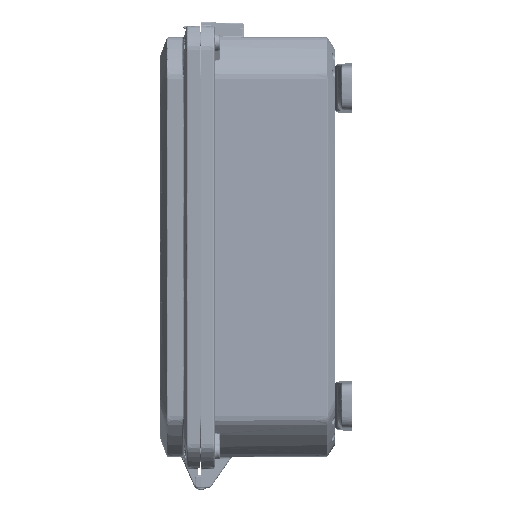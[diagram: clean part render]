
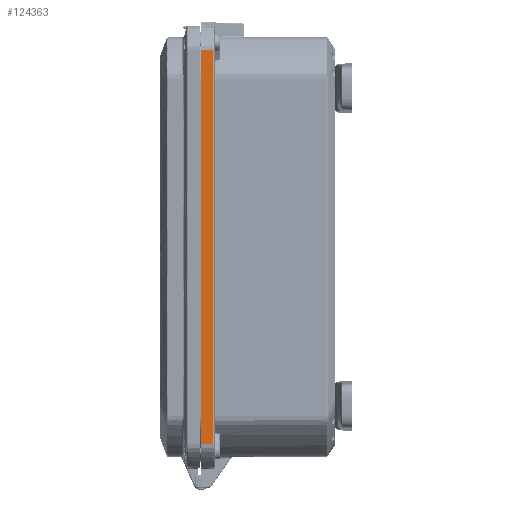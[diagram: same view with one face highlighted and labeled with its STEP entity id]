
A CAD part, left-side view. The second image highlights one B-rep face of the part: STEP entity #124363.
In plain terms, the highlighted planar face has unit normal (-0.999, -0.035, 0).
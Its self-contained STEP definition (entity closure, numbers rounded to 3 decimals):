
#17438 = EDGE_LOOP ( 'NONE', ( #220310, #127961, #129825, #245596 ) ) ;
#19731 = DIRECTION ( 'NONE',  ( 0.035, -0.999, 0. ) ) ;
#23626 = FACE_OUTER_BOUND ( 'NONE', #17438, .T. ) ;
#24797 = VECTOR ( 'NONE', #201503, 39.37 ) ;
#30060 = VERTEX_POINT ( 'NONE', #273532 ) ;
#31733 = CARTESIAN_POINT ( 'NONE',  ( -7.62, 0., 5.89 ) ) ;
#34890 = DIRECTION ( 'NONE',  ( 0., 0., 1. ) ) ;
#38481 = VERTEX_POINT ( 'NONE', #51952 ) ;
#48279 = PLANE ( 'NONE',  #267565 ) ;
#51952 = CARTESIAN_POINT ( 'NONE',  ( -7.62, 0., -5.89 ) ) ;
#79408 = VERTEX_POINT ( 'NONE', #140496 ) ;
#89325 = VERTEX_POINT ( 'NONE', #207936 ) ;
#94631 = EDGE_CURVE ( 'NONE', #38481, #30060, #204655, .T. ) ;
#109171 = LINE ( 'NONE', #175384, #24797 ) ;
#116108 = EDGE_CURVE ( 'NONE', #38481, #79408, #172065, .T. ) ;
#124363 = ADVANCED_FACE ( 'NONE', ( #23626 ), #48279, .T. ) ;
#125760 = VECTOR ( 'NONE', #19731, 39.37 ) ;
#125830 = DIRECTION ( 'NONE',  ( 0.035, -0.999, 0. ) ) ;
#127961 = ORIENTED_EDGE ( 'NONE', *, *, #244626, .F. ) ;
#129825 = ORIENTED_EDGE ( 'NONE', *, *, #116108, .F. ) ;
#140496 = CARTESIAN_POINT ( 'NONE',  ( -7.62, 0., 5.89 ) ) ;
#172065 = LINE ( 'NONE', #292141, #300178 ) ;
#175384 = CARTESIAN_POINT ( 'NONE',  ( -7.608, -0.352, 5.89 ) ) ;
#190011 = DIRECTION ( 'NONE',  ( -0.999, -0.035, 0. ) ) ;
#201503 = DIRECTION ( 'NONE',  ( 0., 0., 1. ) ) ;
#204655 = LINE ( 'NONE', #209155, #125760 ) ;
#207936 = CARTESIAN_POINT ( 'NONE',  ( -7.608, -0.352, 5.89 ) ) ;
#209155 = CARTESIAN_POINT ( 'NONE',  ( -7.62, 0., -5.89 ) ) ;
#211548 = CARTESIAN_POINT ( 'NONE',  ( -7.62, 0., 6.3 ) ) ;
#216107 = DIRECTION ( 'NONE',  ( 0.035, -0.999, 0. ) ) ;
#220310 = ORIENTED_EDGE ( 'NONE', *, *, #236687, .T. ) ;
#236687 = EDGE_CURVE ( 'NONE', #30060, #89325, #109171, .T. ) ;
#244626 = EDGE_CURVE ( 'NONE', #79408, #89325, #265902, .T. ) ;
#245596 = ORIENTED_EDGE ( 'NONE', *, *, #94631, .T. ) ;
#265902 = LINE ( 'NONE', #31733, #273109 ) ;
#267565 = AXIS2_PLACEMENT_3D ( 'NONE', #211548, #190011, #216107 ) ;
#273109 = VECTOR ( 'NONE', #125830, 39.37 ) ;
#273532 = CARTESIAN_POINT ( 'NONE',  ( -7.608, -0.352, -5.89 ) ) ;
#292141 = CARTESIAN_POINT ( 'NONE',  ( -7.62, 0., 6.3 ) ) ;
#300178 = VECTOR ( 'NONE', #34890, 39.37 ) ;
